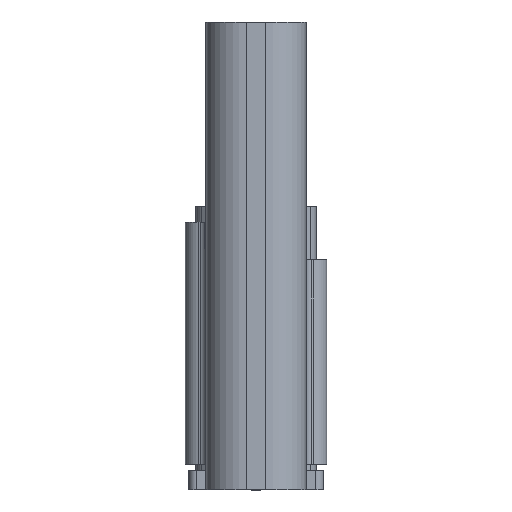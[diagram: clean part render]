
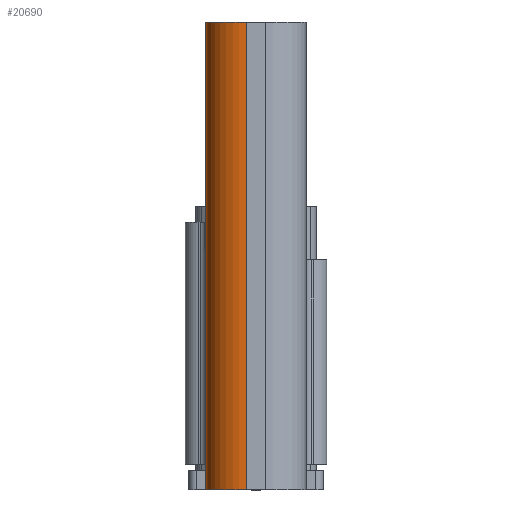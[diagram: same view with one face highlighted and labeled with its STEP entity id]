
A CAD part, left-side view. The second image highlights one B-rep face of the part: STEP entity #20690.
In plain terms, the highlighted cylindrical face has radius 1.28 mm (diameter 2.56 mm), a partial arc.
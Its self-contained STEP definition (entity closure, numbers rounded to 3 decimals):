
#231 = DIRECTION ( 'NONE',  ( 1., 0., 0. ) ) ;
#605 = VERTEX_POINT ( 'NONE', #6257 ) ;
#824 = DIRECTION ( 'NONE',  ( 0., 0., 1. ) ) ;
#2732 = CARTESIAN_POINT ( 'NONE',  ( 261.445, 31.25, -30.65 ) ) ;
#2942 = CARTESIAN_POINT ( 'NONE',  ( 262.725, 32.53, -30.65 ) ) ;
#3821 = DIRECTION ( 'NONE',  ( 1., 0., 0. ) ) ;
#4939 = ORIENTED_EDGE ( 'NONE', *, *, #11477, .F. ) ;
#5135 = CARTESIAN_POINT ( 'NONE',  ( 262.725, 31.25, -30.65 ) ) ;
#5641 = EDGE_CURVE ( 'NONE', #29314, #605, #14683, .T. ) ;
#6257 = CARTESIAN_POINT ( 'NONE',  ( 261.445, 31.25, -45.4 ) ) ;
#8731 = AXIS2_PLACEMENT_3D ( 'NONE', #5135, #15124, #231 ) ;
#9677 = VECTOR ( 'NONE', #824, 1000. ) ;
#10322 = DIRECTION ( 'NONE',  ( 0., 0., 1. ) ) ;
#11477 = EDGE_CURVE ( 'NONE', #23340, #25426, #22834, .T. ) ;
#11796 = CARTESIAN_POINT ( 'NONE',  ( 262.725, 32.53, -45.4 ) ) ;
#12028 = CARTESIAN_POINT ( 'NONE',  ( 262.725, 32.53, -30.65 ) ) ;
#12254 = DIRECTION ( 'NONE',  ( 0., 0., 1. ) ) ;
#14683 = CIRCLE ( 'NONE', #16755, 1.28 ) ;
#15124 = DIRECTION ( 'NONE',  ( 0., 0., 1. ) ) ;
#15362 = FACE_OUTER_BOUND ( 'NONE', #30697, .T. ) ;
#15493 = ORIENTED_EDGE ( 'NONE', *, *, #16710, .T. ) ;
#16423 = DIRECTION ( 'NONE',  ( 0., 0., 1. ) ) ;
#16710 = EDGE_CURVE ( 'NONE', #605, #25426, #17520, .T. ) ;
#16755 = AXIS2_PLACEMENT_3D ( 'NONE', #19204, #16423, #3821 ) ;
#17498 = CYLINDRICAL_SURFACE ( 'NONE', #27890, 1.28 ) ;
#17520 = LINE ( 'NONE', #22750, #20138 ) ;
#19204 = CARTESIAN_POINT ( 'NONE',  ( 262.725, 31.25, -45.4 ) ) ;
#20138 = VECTOR ( 'NONE', #10322, 1000. ) ;
#20690 = ADVANCED_FACE ( 'NONE', ( #15362 ), #17498, .T. ) ;
#22750 = CARTESIAN_POINT ( 'NONE',  ( 261.445, 31.25, -30.65 ) ) ;
#22834 = CIRCLE ( 'NONE', #8731, 1.28 ) ;
#23340 = VERTEX_POINT ( 'NONE', #12028 ) ;
#24626 = ORIENTED_EDGE ( 'NONE', *, *, #5641, .T. ) ;
#25020 = DIRECTION ( 'NONE',  ( 1., 0., 0. ) ) ;
#25426 = VERTEX_POINT ( 'NONE', #2732 ) ;
#26204 = EDGE_CURVE ( 'NONE', #29314, #23340, #27798, .T. ) ;
#26828 = ORIENTED_EDGE ( 'NONE', *, *, #26204, .F. ) ;
#27464 = CARTESIAN_POINT ( 'NONE',  ( 262.725, 31.25, -30.65 ) ) ;
#27798 = LINE ( 'NONE', #2942, #9677 ) ;
#27890 = AXIS2_PLACEMENT_3D ( 'NONE', #27464, #12254, #25020 ) ;
#29314 = VERTEX_POINT ( 'NONE', #11796 ) ;
#30697 = EDGE_LOOP ( 'NONE', ( #15493, #4939, #26828, #24626 ) ) ;
